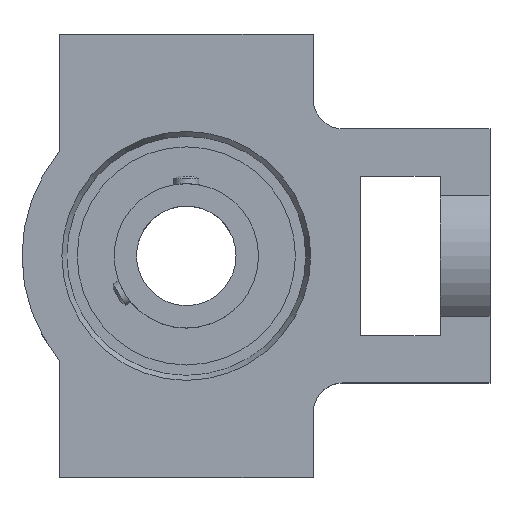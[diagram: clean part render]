
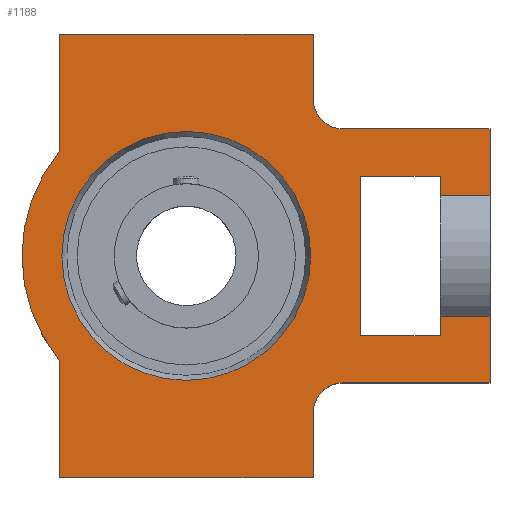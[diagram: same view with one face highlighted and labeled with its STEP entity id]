
A CAD part, top view. The second image highlights one B-rep face of the part: STEP entity #1188.
In plain terms, the highlighted planar face has unit normal (0, 0, 1).
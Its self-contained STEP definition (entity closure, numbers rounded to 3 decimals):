
#123=CARTESIAN_POINT('',(5.26,-35.933,10.5));
#124=VERTEX_POINT('',#123);
#131=CARTESIAN_POINT('',(-0.74,-41.933,10.5));
#132=VERTEX_POINT('',#131);
#133=CARTESIAN_POINT('',(5.26,-41.933,10.5));
#134=DIRECTION('',(0.0,0.0,1.0));
#135=DIRECTION('',(-0.707,0.707,0.0));
#136=AXIS2_PLACEMENT_3D('',#133,#134,#135);
#137=CIRCLE('',#136,6.);
#138=EDGE_CURVE('',#124,#132,#137,.T.);
#163=CARTESIAN_POINT('',(34.76,-35.933,10.5));
#164=VERTEX_POINT('',#163);
#171=CARTESIAN_POINT('',(34.76,-35.933,10.5));
#172=DIRECTION('',(-1.0,0.0,0.0));
#173=VECTOR('',#172,29.5);
#174=LINE('',#171,#173);
#175=EDGE_CURVE('',#164,#124,#174,.T.);
#196=CARTESIAN_POINT('',(-0.74,21.067,10.5));
#197=VERTEX_POINT('',#196);
#204=CARTESIAN_POINT('',(5.26,15.067,10.5));
#205=VERTEX_POINT('',#204);
#206=CARTESIAN_POINT('',(5.26,21.067,10.5));
#207=DIRECTION('',(0.0,0.0,1.0));
#208=DIRECTION('',(-0.707,-0.707,0.0));
#209=AXIS2_PLACEMENT_3D('',#206,#207,#208);
#210=CIRCLE('',#209,6.);
#211=EDGE_CURVE('',#197,#205,#210,.T.);
#268=CARTESIAN_POINT('',(-0.74,34.067,10.5));
#269=VERTEX_POINT('',#268);
#276=CARTESIAN_POINT('',(-0.74,34.067,10.5));
#277=DIRECTION('',(0.0,-1.0,0.0));
#278=VECTOR('',#277,13.);
#279=LINE('',#276,#278);
#280=EDGE_CURVE('',#269,#197,#279,.T.);
#423=CARTESIAN_POINT('',(-51.74,-54.933,10.5));
#424=VERTEX_POINT('',#423);
#431=CARTESIAN_POINT('',(-51.74,-31.379,10.5));
#432=VERTEX_POINT('',#431);
#433=CARTESIAN_POINT('',(-51.74,-54.933,10.5));
#434=DIRECTION('',(0.0,1.0,0.0));
#435=VECTOR('',#434,23.554);
#436=LINE('',#433,#435);
#437=EDGE_CURVE('',#424,#432,#436,.T.);
#470=CARTESIAN_POINT('',(-0.74,-54.933,10.5));
#471=VERTEX_POINT('',#470);
#478=CARTESIAN_POINT('',(-0.74,-54.933,10.5));
#479=DIRECTION('',(-1.0,0.0,0.0));
#480=VECTOR('',#479,51.);
#481=LINE('',#478,#480);
#482=EDGE_CURVE('',#471,#424,#481,.T.);
#597=CARTESIAN_POINT('',(-51.74,34.067,10.5));
#598=VERTEX_POINT('',#597);
#605=CARTESIAN_POINT('',(-51.74,34.067,10.5));
#606=DIRECTION('',(1.0,0.0,0.0));
#607=VECTOR('',#606,51.);
#608=LINE('',#605,#607);
#609=EDGE_CURVE('',#598,#269,#608,.T.);
#632=CARTESIAN_POINT('',(-51.74,10.514,10.5));
#633=VERTEX_POINT('',#632);
#640=CARTESIAN_POINT('',(-51.74,10.514,10.5));
#641=DIRECTION('',(0.0,1.0,0.0));
#642=VECTOR('',#641,23.554);
#643=LINE('',#640,#642);
#644=EDGE_CURVE('',#633,#598,#643,.T.);
#715=CARTESIAN_POINT('',(-51.24,-10.433,10.5));
#716=VERTEX_POINT('',#715);
#717=CARTESIAN_POINT('',(-26.24,-10.433,10.5));
#718=DIRECTION('',(0.0,0.0,-1.0));
#719=DIRECTION('',(-1.0,0.0,0.0));
#720=AXIS2_PLACEMENT_3D('',#717,#718,#719);
#721=CIRCLE('',#720,25.0);
#722=EDGE_CURVE('',#716,#716,#721,.T.);
#777=CARTESIAN_POINT('',(24.76,1.64,10.5));
#778=VERTEX_POINT('',#777);
#779=CARTESIAN_POINT('',(24.76,-22.506,10.5));
#780=VERTEX_POINT('',#779);
#788=CARTESIAN_POINT('',(34.76,-22.506,10.5));
#789=VERTEX_POINT('',#788);
#790=CARTESIAN_POINT('',(34.76,-22.506,10.5));
#791=DIRECTION('',(-1.0,0.0,0.0));
#792=VECTOR('',#791,10.0);
#793=LINE('',#790,#792);
#794=EDGE_CURVE('',#789,#780,#793,.T.);
#796=CARTESIAN_POINT('',(34.76,1.64,10.5));
#797=VERTEX_POINT('',#796);
#805=CARTESIAN_POINT('',(24.76,1.64,10.5));
#806=DIRECTION('',(1.0,0.0,0.0));
#807=VECTOR('',#806,10.0);
#808=LINE('',#805,#807);
#809=EDGE_CURVE('',#778,#797,#808,.T.);
#847=CARTESIAN_POINT('',(24.76,5.567,10.5));
#848=VERTEX_POINT('',#847);
#849=CARTESIAN_POINT('',(24.76,5.567,10.5));
#850=DIRECTION('',(0.0,-1.0,0.0));
#851=VECTOR('',#850,3.927);
#852=LINE('',#849,#851);
#853=EDGE_CURVE('',#848,#778,#852,.T.);
#878=CARTESIAN_POINT('',(24.76,-26.433,10.5));
#879=VERTEX_POINT('',#878);
#886=CARTESIAN_POINT('',(24.76,-22.506,10.5));
#887=DIRECTION('',(0.0,-1.0,0.0));
#888=VECTOR('',#887,3.927);
#889=LINE('',#886,#888);
#890=EDGE_CURVE('',#780,#879,#889,.T.);
#904=CARTESIAN_POINT('',(8.76,-26.433,10.5));
#905=VERTEX_POINT('',#904);
#906=CARTESIAN_POINT('',(24.76,-26.433,10.5));
#907=DIRECTION('',(-1.0,0.0,0.0));
#908=VECTOR('',#907,16.0);
#909=LINE('',#906,#908);
#910=EDGE_CURVE('',#879,#905,#909,.T.);
#935=CARTESIAN_POINT('',(8.76,5.567,10.5));
#936=VERTEX_POINT('',#935);
#937=CARTESIAN_POINT('',(8.76,-26.433,10.5));
#938=DIRECTION('',(0.0,1.0,0.0));
#939=VECTOR('',#938,32.0);
#940=LINE('',#937,#939);
#941=EDGE_CURVE('',#905,#936,#940,.T.);
#966=CARTESIAN_POINT('',(8.76,5.567,10.5));
#967=DIRECTION('',(1.0,0.0,0.0));
#968=VECTOR('',#967,16.0);
#969=LINE('',#966,#968);
#970=EDGE_CURVE('',#936,#848,#969,.T.);
#1055=CARTESIAN_POINT('',(34.76,15.067,10.5));
#1056=VERTEX_POINT('',#1055);
#1057=CARTESIAN_POINT('',(5.26,15.067,10.5));
#1058=DIRECTION('',(1.0,0.0,0.0));
#1059=VECTOR('',#1058,29.5);
#1060=LINE('',#1057,#1059);
#1061=EDGE_CURVE('',#205,#1056,#1060,.T.);
#1078=CARTESIAN_POINT('',(34.76,15.067,10.5));
#1079=DIRECTION('',(0.0,-1.0,0.0));
#1080=VECTOR('',#1079,13.427);
#1081=LINE('',#1078,#1080);
#1082=EDGE_CURVE('',#1056,#797,#1081,.T.);
#1085=CARTESIAN_POINT('',(34.76,-22.506,10.5));
#1086=DIRECTION('',(0.0,-1.0,0.0));
#1087=VECTOR('',#1086,13.427);
#1088=LINE('',#1085,#1087);
#1089=EDGE_CURVE('',#789,#164,#1088,.T.);
#1108=CARTESIAN_POINT('',(-0.74,-41.933,10.5));
#1109=DIRECTION('',(0.0,-1.0,0.0));
#1110=VECTOR('',#1109,13.);
#1111=LINE('',#1108,#1110);
#1112=EDGE_CURVE('',#132,#471,#1111,.T.);
#1145=CARTESIAN_POINT('',(-26.24,-10.433,10.5));
#1146=DIRECTION('',(0.0,0.0,-1.0));
#1147=DIRECTION('',(-0.773,0.635,0.0));
#1148=AXIS2_PLACEMENT_3D('',#1145,#1146,#1147);
#1149=CIRCLE('',#1148,33.);
#1150=EDGE_CURVE('',#432,#633,#1149,.T.);
#1158=CARTESIAN_POINT('',(-13.293,-10.433,10.5));
#1159=DIRECTION('',(0.0,0.0,1.0));
#1160=DIRECTION('',(1.0,0.0,0.0));
#1161=AXIS2_PLACEMENT_3D('',#1158,#1159,#1160);
#1162=PLANE('',#1161);
#1163=ORIENTED_EDGE('',*,*,#794,.T.);
#1164=ORIENTED_EDGE('',*,*,#890,.T.);
#1165=ORIENTED_EDGE('',*,*,#910,.T.);
#1166=ORIENTED_EDGE('',*,*,#941,.T.);
#1167=ORIENTED_EDGE('',*,*,#970,.T.);
#1168=ORIENTED_EDGE('',*,*,#853,.T.);
#1169=ORIENTED_EDGE('',*,*,#809,.T.);
#1170=ORIENTED_EDGE('',*,*,#1082,.F.);
#1171=ORIENTED_EDGE('',*,*,#1061,.F.);
#1172=ORIENTED_EDGE('',*,*,#211,.F.);
#1173=ORIENTED_EDGE('',*,*,#280,.F.);
#1174=ORIENTED_EDGE('',*,*,#609,.F.);
#1175=ORIENTED_EDGE('',*,*,#644,.F.);
#1176=ORIENTED_EDGE('',*,*,#1150,.F.);
#1177=ORIENTED_EDGE('',*,*,#437,.F.);
#1178=ORIENTED_EDGE('',*,*,#482,.F.);
#1179=ORIENTED_EDGE('',*,*,#1112,.F.);
#1180=ORIENTED_EDGE('',*,*,#138,.F.);
#1181=ORIENTED_EDGE('',*,*,#175,.F.);
#1182=ORIENTED_EDGE('',*,*,#1089,.F.);
#1183=EDGE_LOOP('',(#1163,#1164,#1165,#1166,#1167,#1168,#1169,#1170,#1171,#1172,#1173,#1174,#1175,#1176,#1177,#1178,#1179,#1180,#1181,#1182));
#1184=FACE_OUTER_BOUND('',#1183,.T.);
#1185=ORIENTED_EDGE('',*,*,#722,.T.);
#1186=EDGE_LOOP('',(#1185));
#1187=FACE_BOUND('',#1186,.T.);
#1188=ADVANCED_FACE('',(#1184,#1187),#1162,.T.);
